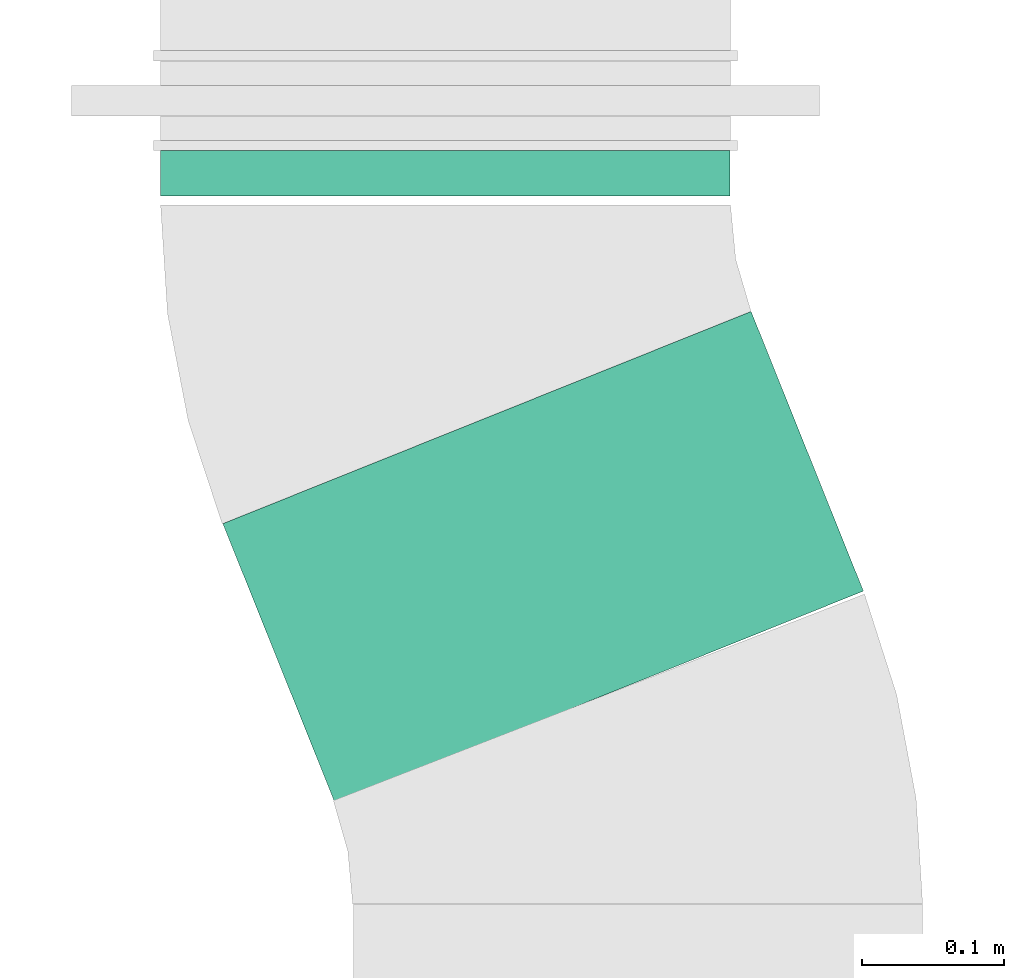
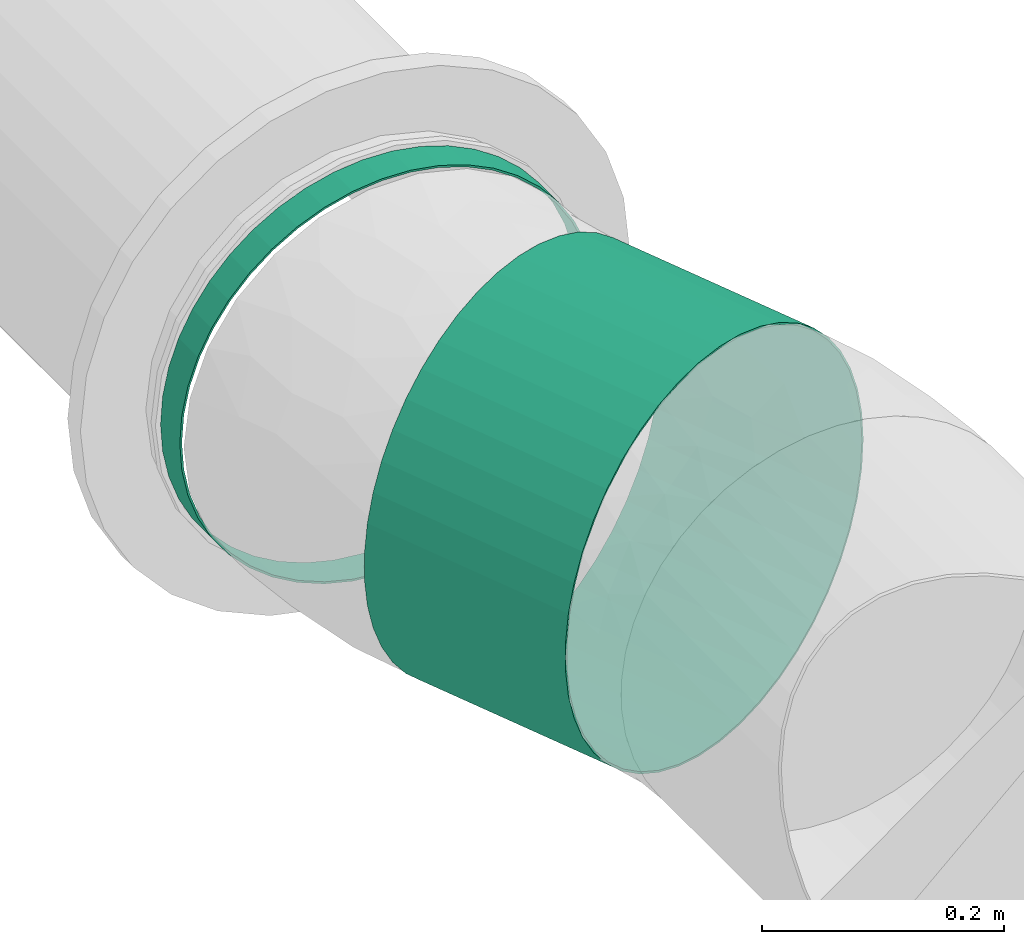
# One storey, part 8 of 14: 2 flow segments.
"""IFC2X3 building model written with IfcOpenShell, lengths in millimetres."""

from ifc_helpers import new_model, entity, si_unit, converted_unit, derived_unit, direction, frame, origin_with_axes, origin_2d_with_axis, place, context, subcontext, project, spatial, hollow_circle, extrude, source, transform, mapped, type_object, element, save


model = new_model("IFC2X3")

# Units and contexts
model_context = context("Model", 3, precision=0.01, world=frame((0.0, 4.29681676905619e-09, 0.0)), true_north=direction((4.01073788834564e-13, 1.0)))
plan_context = context("Plan", 3, precision=0.01, world=frame((0.0, 4.29681676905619e-09, 0.0)), true_north=direction((4.01073788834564e-13, 1.0)))
body_context = subcontext(model_context, "Body", "Model", "MODEL_VIEW")
ifc_project = project(units=[converted_unit("PLANEANGLEUNIT", "DEGREE", entity("IfcPositiveLengthMeasure", 0.0174532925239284), si_unit("PLANEANGLEUNIT", "RADIAN"), dimensions=[0, 0, 0, 0, 0, 0, 0]), si_unit("AREAUNIT", "SQUARE_METRE"), si_unit("LENGTHUNIT", "METRE", prefix="MILLI"), si_unit("MASSUNIT", "GRAM", prefix="KILO"), si_unit("POWERUNIT", "WATT"), si_unit("PRESSUREUNIT", "PASCAL", prefix="KILO"), si_unit("FORCEUNIT", "NEWTON", prefix="KILO"), si_unit("ELECTRICVOLTAGEUNIT", "VOLT"), si_unit("ELECTRICCURRENTUNIT", "AMPERE"), si_unit("THERMODYNAMICTEMPERATUREUNIT", "DEGREE_CELSIUS"), si_unit("TIMEUNIT", "SECOND"), si_unit("VOLUMEUNIT", "CUBIC_METRE"), derived_unit("LINEARVELOCITYUNIT", [(si_unit("LENGTHUNIT", "METRE"), 1), (si_unit("TIMEUNIT", "SECOND"), -1)]), derived_unit("VOLUMETRICFLOWRATEUNIT", [(si_unit("VOLUMEUNIT", "CUBIC_METRE"), 1), (si_unit("TIMEUNIT", "SECOND"), -1)]), derived_unit("THERMALTRANSMITTANCEUNIT", [(si_unit("POWERUNIT", "WATT"), 1), (si_unit("THERMODYNAMICTEMPERATUREUNIT", "KELVIN"), -1), (si_unit("AREAUNIT", "SQUARE_METRE"), -1)]), derived_unit("SOUNDPRESSUREUNIT", [(si_unit("PRESSUREUNIT", "PASCAL"), 1)])], contexts=[model_context, plan_context])

# Site, building, storey
site_placement = place(None, frame((0.0, -4.29681676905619e-09, 0.0), z_axis=(0.0, 0.0, 1.0), x_axis=(1.0, 0.0, 0.0)))
site = spatial("IfcSite", under=ifc_project, at=site_placement, CompositionType="ELEMENT")
building_placement = place(site_placement, frame((0.0, 4.29681676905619e-09, 0.0), z_axis=(0.0, 0.0, 1.0), x_axis=(1.0, 0.0, 0.0)))
building = spatial("IfcBuilding", under=site, at=building_placement, Name="mc-building", CompositionType="ELEMENT")
storey_placement = place(building_placement, frame((0.0, 0.0, 205200.0), z_axis=(0.0, 0.0, 1.0), x_axis=(1.0, 0.0, 0.0)))
storey = spatial("IfcBuildingStorey", under=building, at=storey_placement, Name="Nivå D + 1,2 m", CompositionType="ELEMENT", Elevation=205200.0)

# Flow segments
duct_segment_type = type_object("IfcDuctSegmentType", Name="2 - Spiro kanaler, Forsinket stål", PredefinedType="RIGIDSEGMENT")
shared_shape_1 = source(origin_with_axes(), body_context, "Body", "SweptSolid", [
    extrude(hollow_circle(Radius=200.0, WallThickness=2.0, at=origin_2d_with_axis()), frame((0.0, 0.0, 0.0), z_axis=(1.0, 0.0, 0.0), x_axis=(0.0, 1.0, 0.0)), (0.0, 0.0, 1.0), 211.5),
])
flow_segment_1_placement = place(storey_placement, frame((329494.38783, 466614.64576, 4099.98340999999), z_axis=(0.0, 0.0, 1.0), x_axis=(0.372720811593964, -0.927943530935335, 0.0)))
element("IfcFlowSegment", 1, at=flow_segment_1_placement, inside=storey, type_object=duct_segment_type, Name="2 - Spiro kanaler, Forsinket stål", context=body_context, shape_type="MappedRepresentation", body=[
    mapped(shared_shape_1, transform((0.0, 0.0, 0.0), scale=1.0)),
])
shared_shape_2 = source(origin_with_axes(), body_context, "Body", "SweptSolid", [
    extrude(hollow_circle(Radius=200.0, WallThickness=2.0, at=origin_2d_with_axis()), frame((0.0, 0.0, 0.0), z_axis=(1.0, 0.0, 0.0), x_axis=(0.0, 1.0, 0.0)), (0.0, 0.0, 1.0), 31.8),
])
flow_segment_2_placement = place(storey_placement, frame((329465.56528, 466770.30452, 4099.98340999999), z_axis=(0.0, 0.0, 1.0), x_axis=(0.0, 1.0, 0.0)))
element("IfcFlowSegment", 2, at=flow_segment_2_placement, inside=storey, type_object=duct_segment_type, Name="2 - Spiro kanaler, Forsinket stål", context=body_context, shape_type="MappedRepresentation", body=[
    mapped(shared_shape_2, transform((0.0, 0.0, 0.0), scale=1.0)),
])

save(model, "model.ifc")
